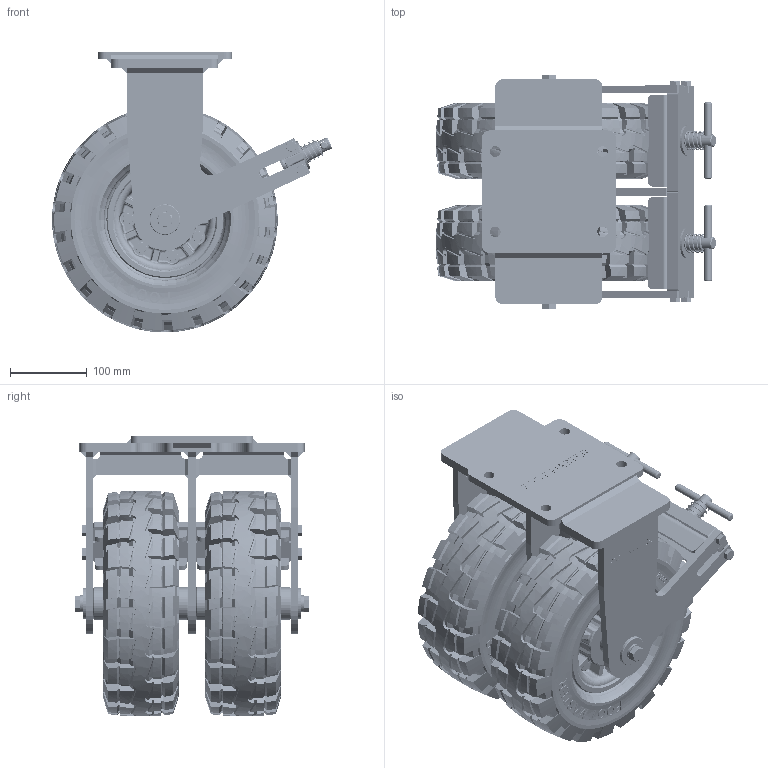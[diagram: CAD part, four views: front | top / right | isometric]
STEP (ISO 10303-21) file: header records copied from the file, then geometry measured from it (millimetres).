
FILE_DESCRIPTION(/* description */ (''),/* implementation_level */ '2;1');
FILE_NAME(/* name */ '\\192.168.10.38\지덕공유\1.기술연구소\2.연구개발 진행중\121.Solidtire caster_2024.11.22\제품설계\홈페이지용 도면\3D\GT-300\8.GTD-300-BRF-TRD.stp',/* time_stamp */ '2025-09-19T11:05:54+09:00',/* author */ ('admin'),/* organization */ (''),/* preprocessor_version */ 'ST-DEVELOPER v18.1',/* originating_system */ 'Autodesk Inventor 2021',/* authorisation */ '');
FILE_SCHEMA (('AUTOMOTIVE_DESIGN { 1 0 10303 214 3 1 1 }'));
Products named in the file (1): 8.GTD-300-BRF-TIRE-Rev01_2025.09.18_Shrinkwrap_1
Bounding box: 365.76 x 307 x 366.96 mm (x, y, z)
Volume: 13231879 mm3; surface area: 1026245.6 mm2
Topology: 3 solids, 3 shells, 7074 faces, 19106 edges, 12191 vertices
Faces by surface type: bspline 3217, plane 2102, cone 1052, torus 406, cylinder 297
Full cylindrical faces by diameter (mm): 1 x2, 8 x14, 10.2 x2, 12.5 x14, 14 x4, 16 x4, 17 x14, 20 x2, 24 x2, 40 x4, 42.7 x4, 160 x4
Entity records: 290227 total; most frequent: CARTESIAN_POINT 133104, ORIENTED_EDGE 37988, DIRECTION 20795, EDGE_CURVE 18994, VERTEX_POINT 12191, B_SPLINE_CURVE_WITH_KNOTS 9126, AXIS2_PLACEMENT_3D 7647, EDGE_LOOP 7393
